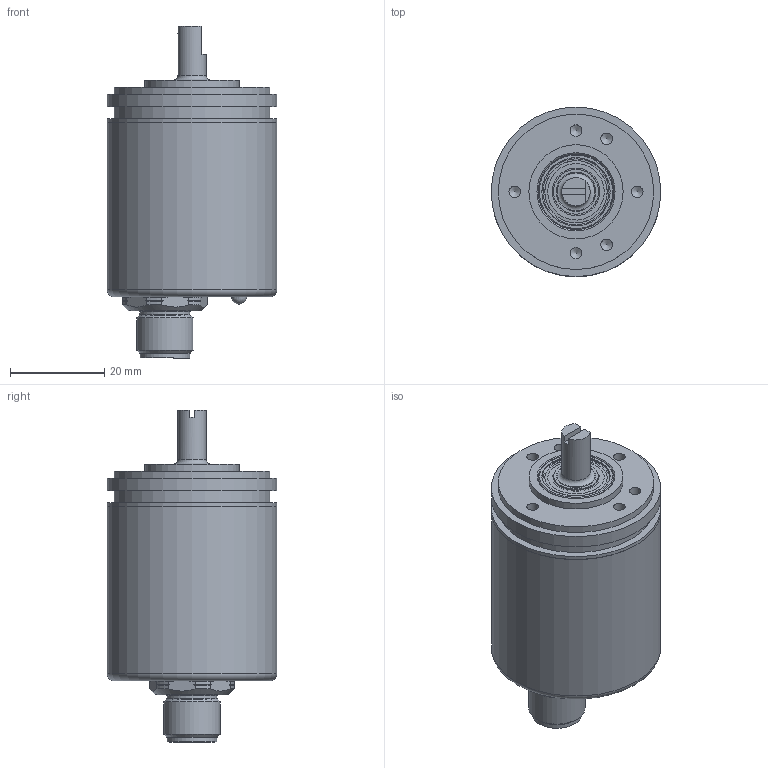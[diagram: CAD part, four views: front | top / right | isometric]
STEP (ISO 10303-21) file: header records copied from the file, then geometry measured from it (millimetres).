
FILE_DESCRIPTION (( 'STEP AP203' ), '1' );
FILE_NAME ('HTx36E S_axial.STEP', '2021-06-09T16:53:36', ( '' ), ( '' ), 'SwSTEP 2.0', 'SolidWorks 2019', '' );
FILE_SCHEMA (( 'CONFIG_CONTROL_DESIGN' ));
Length unit declared in the file: millimetre
Products named in the file (1): HTx36E S_axial
Bounding box: 36 x 36 x 70.5 mm (x, y, z)
Volume: 19214.5 mm3; surface area: 23728.4 mm2
Topology: 32 solids, 33 shells, 450 faces, 1049 edges, 664 vertices
Faces by surface type: plane 139, cylinder 110, bspline 79, cone 60, torus 35, sphere 27
Full cylindrical faces by diameter (mm): 0.56 x8, 0.8 x8, 2.459 x6, 2.5 x1, 2.6 x1, 6 x1, 7.6 x1, 8 x6, 8.1 x1, 8.3 x1, 9.5 x8, 9.85 x1, 10 x2, 10.1 x4, 10.5 x1, 10.65 x1, 12 x1, 12.15 x1, 13.4 x1, 13.5 x1, 14 x4, 14.5 x8, 15.2 x1, 15.85 x1, 16 x6, 20 x1, 31.6 x1, 32 x1, 33 x2, 33.2 x1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
Entity records: 13193 total; most frequent: CARTESIAN_POINT 4907, DIRECTION 1590, ORIENTED_EDGE 1452, EDGE_CURVE 726, EDGE_LOOP 681, AXIS2_PLACEMENT_3D 673, VERTEX_POINT 563, FACE_OUTER_BOUND 561
